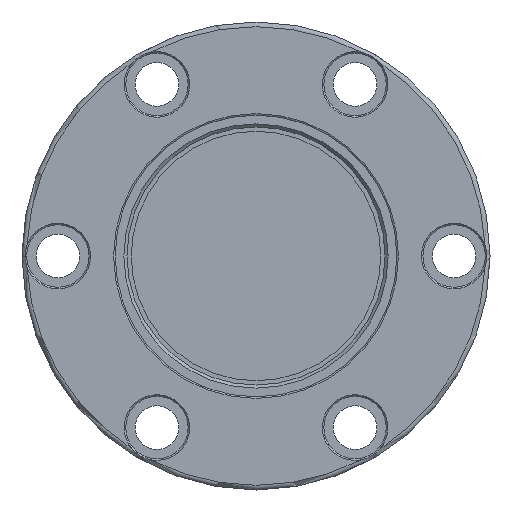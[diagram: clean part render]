
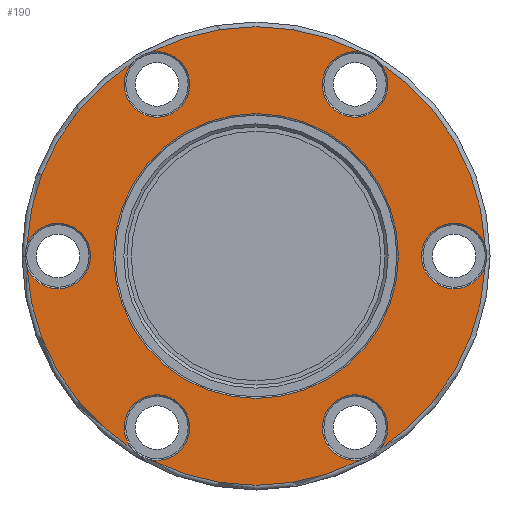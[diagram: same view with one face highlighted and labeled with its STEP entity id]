
A CAD part, front view. The second image highlights one B-rep face of the part: STEP entity #190.
In plain terms, the highlighted planar face has unit normal (0, -1, 0).
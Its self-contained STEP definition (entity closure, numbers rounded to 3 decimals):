
#138=PLANE('',#952);
#190=ADVANCED_FACE('',(#272,#273),#138,.T.);
#272=FACE_BOUND('',#390,.T.);
#273=FACE_BOUND('',#391,.T.);
#390=EDGE_LOOP('',(#544));
#391=EDGE_LOOP('',(#545,#546,#547,#548,#549,#550,#551,#552,#553,#554,#555,
#556));
#544=ORIENTED_EDGE('',*,*,#769,.T.);
#545=ORIENTED_EDGE('',*,*,#770,.T.);
#546=ORIENTED_EDGE('',*,*,#771,.T.);
#547=ORIENTED_EDGE('',*,*,#772,.T.);
#548=ORIENTED_EDGE('',*,*,#773,.T.);
#549=ORIENTED_EDGE('',*,*,#774,.T.);
#550=ORIENTED_EDGE('',*,*,#775,.T.);
#551=ORIENTED_EDGE('',*,*,#776,.T.);
#552=ORIENTED_EDGE('',*,*,#777,.T.);
#553=ORIENTED_EDGE('',*,*,#778,.T.);
#554=ORIENTED_EDGE('',*,*,#779,.T.);
#555=ORIENTED_EDGE('',*,*,#780,.T.);
#556=ORIENTED_EDGE('',*,*,#781,.T.);
#684=VERTEX_POINT('',#1402);
#685=VERTEX_POINT('',#1404);
#686=VERTEX_POINT('',#1405);
#687=VERTEX_POINT('',#1407);
#688=VERTEX_POINT('',#1409);
#689=VERTEX_POINT('',#1411);
#690=VERTEX_POINT('',#1413);
#691=VERTEX_POINT('',#1415);
#692=VERTEX_POINT('',#1417);
#693=VERTEX_POINT('',#1419);
#694=VERTEX_POINT('',#1421);
#695=VERTEX_POINT('',#1423);
#696=VERTEX_POINT('',#1425);
#769=EDGE_CURVE('',#684,#684,#844,.T.);
#770=EDGE_CURVE('',#685,#686,#845,.T.);
#771=EDGE_CURVE('',#686,#687,#846,.T.);
#772=EDGE_CURVE('',#687,#688,#847,.T.);
#773=EDGE_CURVE('',#688,#689,#848,.T.);
#774=EDGE_CURVE('',#689,#690,#849,.T.);
#775=EDGE_CURVE('',#690,#691,#850,.T.);
#776=EDGE_CURVE('',#691,#692,#851,.T.);
#777=EDGE_CURVE('',#692,#693,#852,.T.);
#778=EDGE_CURVE('',#693,#694,#853,.T.);
#779=EDGE_CURVE('',#694,#695,#854,.T.);
#780=EDGE_CURVE('',#695,#696,#855,.T.);
#781=EDGE_CURVE('',#696,#685,#856,.T.);
#844=CIRCLE('',#939,45.65);
#845=CIRCLE('',#940,10.5);
#846=CIRCLE('',#941,73.5);
#847=CIRCLE('',#942,10.5);
#848=CIRCLE('',#943,73.5);
#849=CIRCLE('',#944,10.5);
#850=CIRCLE('',#945,73.5);
#851=CIRCLE('',#946,10.5);
#852=CIRCLE('',#947,73.5);
#853=CIRCLE('',#948,10.5);
#854=CIRCLE('',#949,73.5);
#855=CIRCLE('',#950,10.5);
#856=CIRCLE('',#951,73.5);
#939=AXIS2_PLACEMENT_3D('',#1401,#1135,#1136);
#940=AXIS2_PLACEMENT_3D('',#1403,#1137,#1138);
#941=AXIS2_PLACEMENT_3D('',#1406,#1139,#1140);
#942=AXIS2_PLACEMENT_3D('',#1408,#1141,#1142);
#943=AXIS2_PLACEMENT_3D('',#1410,#1143,#1144);
#944=AXIS2_PLACEMENT_3D('',#1412,#1145,#1146);
#945=AXIS2_PLACEMENT_3D('',#1414,#1147,#1148);
#946=AXIS2_PLACEMENT_3D('',#1416,#1149,#1150);
#947=AXIS2_PLACEMENT_3D('',#1418,#1151,#1152);
#948=AXIS2_PLACEMENT_3D('',#1420,#1153,#1154);
#949=AXIS2_PLACEMENT_3D('',#1422,#1155,#1156);
#950=AXIS2_PLACEMENT_3D('',#1424,#1157,#1158);
#951=AXIS2_PLACEMENT_3D('',#1426,#1159,#1160);
#952=AXIS2_PLACEMENT_3D('',#1427,#1161,#1162);
#1135=DIRECTION('',(0.,1.,0.));
#1136=DIRECTION('',(0.,0.,-1.));
#1137=DIRECTION('',(0.,1.,0.));
#1138=DIRECTION('',(0.,0.,-1.));
#1139=DIRECTION('',(0.,-1.,0.));
#1140=DIRECTION('',(0.,0.,-1.));
#1141=DIRECTION('',(0.,1.,0.));
#1142=DIRECTION('',(0.,0.,-1.));
#1143=DIRECTION('',(0.,-1.,0.));
#1144=DIRECTION('',(0.,0.,-1.));
#1145=DIRECTION('',(0.,1.,0.));
#1146=DIRECTION('',(0.,0.,-1.));
#1147=DIRECTION('',(0.,-1.,0.));
#1148=DIRECTION('',(0.,0.,-1.));
#1149=DIRECTION('',(0.,1.,0.));
#1150=DIRECTION('',(0.,0.,-1.));
#1151=DIRECTION('',(0.,-1.,0.));
#1152=DIRECTION('',(0.,0.,-1.));
#1153=DIRECTION('',(0.,1.,0.));
#1154=DIRECTION('',(0.,0.,-1.));
#1155=DIRECTION('',(0.,-1.,0.));
#1156=DIRECTION('',(0.,0.,-1.));
#1157=DIRECTION('',(0.,1.,0.));
#1158=DIRECTION('',(0.,0.,-1.));
#1159=DIRECTION('',(0.,-1.,0.));
#1160=DIRECTION('',(0.,0.,-1.));
#1161=DIRECTION('',(0.,-1.,0.));
#1162=DIRECTION('',(0.,0.,-1.));
#1401=CARTESIAN_POINT('',(0.,0.,0.));
#1402=CARTESIAN_POINT('',(0.,0.,-45.65));
#1403=CARTESIAN_POINT('',(-63.5,0.,0.));
#1404=CARTESIAN_POINT('',(-73.419,0.,3.443));
#1405=CARTESIAN_POINT('',(-73.419,0.,-3.443));
#1406=CARTESIAN_POINT('',(0.,0.,0.));
#1407=CARTESIAN_POINT('',(-39.692,0.,-61.861));
#1408=CARTESIAN_POINT('',(-31.75,0.,-54.993));
#1409=CARTESIAN_POINT('',(-33.727,0.,-65.305));
#1410=CARTESIAN_POINT('',(0.,0.,0.));
#1411=CARTESIAN_POINT('',(33.727,0.,-65.305));
#1412=CARTESIAN_POINT('',(31.75,0.,-54.993));
#1413=CARTESIAN_POINT('',(39.692,0.,-61.861));
#1414=CARTESIAN_POINT('',(0.,0.,0.));
#1415=CARTESIAN_POINT('',(73.419,0.,-3.443));
#1416=CARTESIAN_POINT('',(63.5,0.,0.));
#1417=CARTESIAN_POINT('',(73.419,0.,3.443));
#1418=CARTESIAN_POINT('',(0.,0.,0.));
#1419=CARTESIAN_POINT('',(39.692,0.,61.861));
#1420=CARTESIAN_POINT('',(31.75,0.,54.993));
#1421=CARTESIAN_POINT('',(33.727,0.,65.305));
#1422=CARTESIAN_POINT('',(0.,0.,0.));
#1423=CARTESIAN_POINT('',(-33.727,0.,65.305));
#1424=CARTESIAN_POINT('',(-31.75,0.,54.993));
#1425=CARTESIAN_POINT('',(-39.692,0.,61.861));
#1426=CARTESIAN_POINT('',(0.,0.,0.));
#1427=CARTESIAN_POINT('',(0.,0.,0.));
